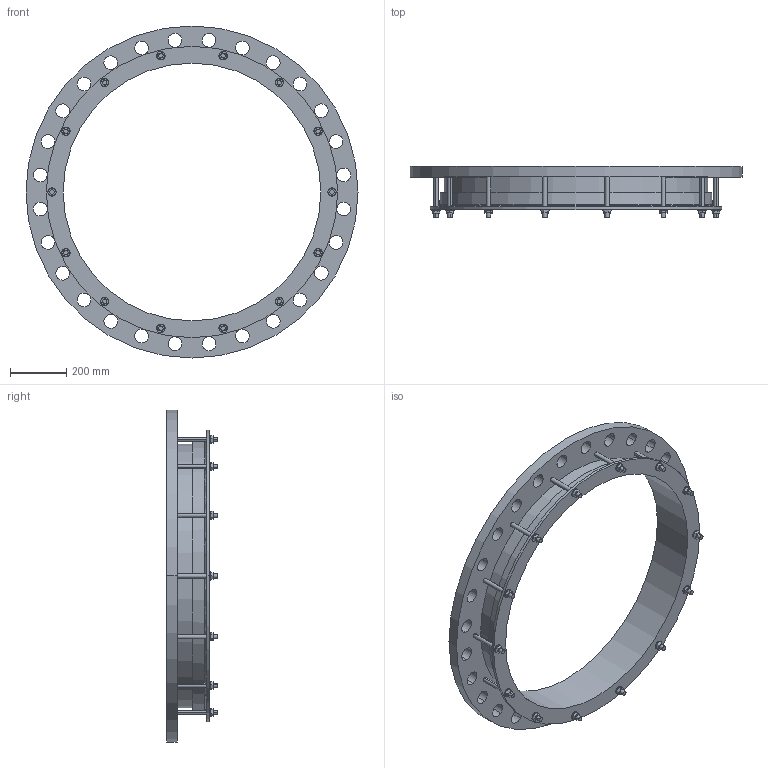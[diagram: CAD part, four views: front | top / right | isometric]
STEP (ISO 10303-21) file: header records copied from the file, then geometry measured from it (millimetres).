
FILE_DESCRIPTION((''),'2;1');
FILE_NAME('916X900PN25_7NOT','2019-04-04T',('mfairey'),('Glynwed Pipe Systems'),'CREO PARAMETRIC BY PTC INC, 2016130','CREO PARAMETRIC BY PTC INC, 2016130','');
FILE_SCHEMA(('CONFIG_CONTROL_DESIGN'));
Length unit declared in the file: millimetre
Products named in the file (1): 916X900PN25_7NOT
Bounding box: 1185 x 182 x 1185 mm (x, y, z)
Volume: 22694599.5 mm3; surface area: 2244471.9 mm2
Topology: 1 solids, 1 shells, 284 faces, 752 edges, 500 vertices
Faces by surface type: cylinder 148, plane 130, cone 4, torus 2
Entity records: 9998 total; most frequent: CARTESIAN_POINT 2552, DIRECTION 1548, ORIENTED_EDGE 1504, EDGE_CURVE 752, AXIS2_PLACEMENT_3D 572, VERTEX_POINT 500, VECTOR 404, LINE 404
